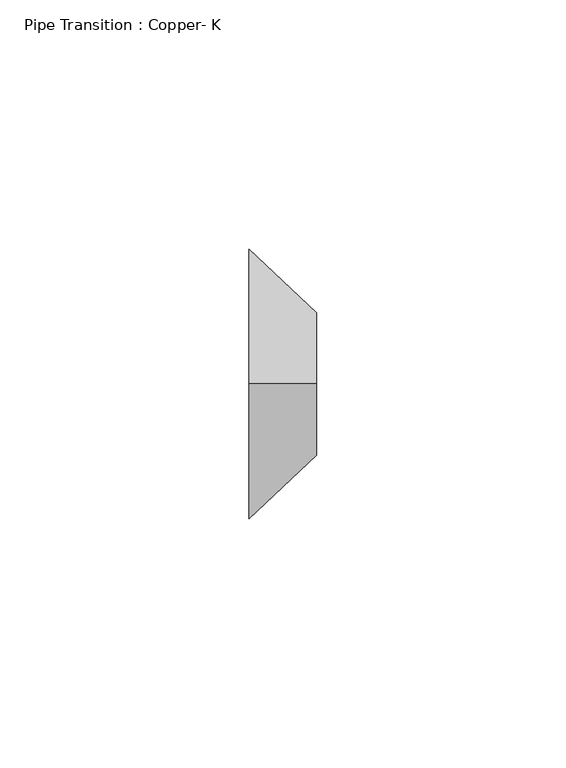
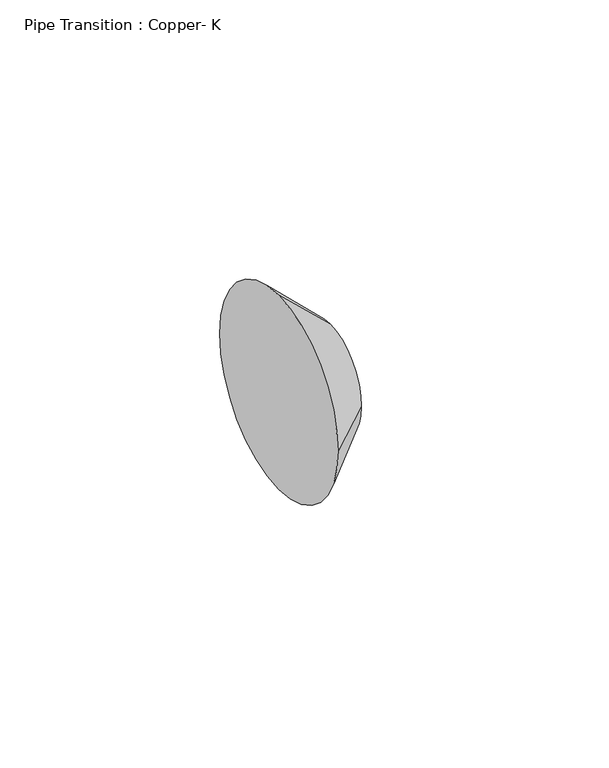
"""IFC4 building model written with IfcOpenShell, lengths in millimetres: pipe fitting geometry, Pipe Transition : Copper- K."""

from ifc_helpers import new_model, si_unit, frame, origin, place, context, project, spatial, polyline, circle_curve, source, transform, mapped, element, save
from ifc_brep_helpers import plane_surface, revolved_surface, advanced_brep


def pipe_transition_copper_k_a6a91236(model_context):
    return source(origin(), model_context, "Body", "AdvancedBrep", [
        advanced_brep(
        [(13.49375, 0.0, 14.2875), (13.49375, -14.2875, 0.0), (13.49375, 0.0, -14.2875), (13.49375, 14.2875, 0.0), (0.0, 0.0, 26.9875), (0.0, 26.9875, 0.0), (0.0, 0.0, -26.9875), (0.0, -26.9875, 0.0)],
        [
            (0, 1, circle_curve(frame((13.49375, 0.0, 0.0), z_axis=(1.0, 0.0, 0.0), x_axis=(0.0, 0.0, 1.0)), 14.2875)),
            (1, 2, circle_curve(frame((13.49375, 0.0, 0.0), z_axis=(1.0, 0.0, 0.0), x_axis=(0.0, -1.0, 0.0)), 14.2875)),
            (2, 3, circle_curve(frame((13.49375, 0.0, 0.0), z_axis=(1.0, 0.0, 0.0), x_axis=(0.0, 0.0, -1.0)), 14.2875)),
            (3, 0, circle_curve(frame((13.49375, 0.0, 0.0), z_axis=(1.0, 0.0, 0.0), x_axis=(0.0, 1.0, 0.0)), 14.2875)),
            (4, 5, circle_curve(frame((0.0, 0.0, 0.0), z_axis=(-1.0, 0.0, 0.0), x_axis=(0.0, 1.0, 0.0)), 26.9875)),
            (5, 6, circle_curve(frame((0.0, 0.0, 0.0), z_axis=(-1.0, 0.0, 0.0), x_axis=(0.0, 0.0, -1.0)), 26.9875)),
            (6, 7, circle_curve(frame((0.0, 0.0, 0.0), z_axis=(-1.0, 0.0, 0.0), x_axis=(0.0, -1.0, 0.0)), 26.9875)),
            (7, 4, circle_curve(frame((0.0, 0.0, 0.0), z_axis=(-1.0, 0.0, 0.0), x_axis=(0.0, 0.0, 1.0)), 26.9875)),
            (7, 1),
            (0, 4),
            (6, 2),
            (5, 3),
        ],
        [
            plane_surface(frame((13.49375, 0.0, 0.0), z_axis=(1.0, 0.0, 0.0), x_axis=(0.0, -1.0, 0.0))),
            plane_surface(frame((0.0, 0.0, 0.0), z_axis=(-1.0, 0.0, 0.0), x_axis=(0.0, -1.0, 0.0))),
            revolved_surface(polyline([(13.493750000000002, 0.0, 14.287500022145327), (0.0, 0.0, 26.9875)]), (28.6742188, 0.0, 0.0), (-1.0, 0.0, 0.0)),
            revolved_surface(polyline([(13.493750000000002, -14.287500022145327, 0.0), (0.0, -26.9875, 0.0)]), (28.6742188, 0.0, 0.0), (-1.0, 0.0, 0.0)),
            revolved_surface(polyline([(13.493750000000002, 0.0, -14.287500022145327), (0.0, 0.0, -26.9875)]), (28.6742188, 0.0, 0.0), (-1.0, 0.0, 0.0)),
            revolved_surface(polyline([(13.493750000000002, 14.287500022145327, 0.0), (0.0, 26.9875, 0.0)]), (28.6742188, 0.0, 0.0), (-1.0, 0.0, 0.0)),
        ],
        [
            (0, [[1, 2, 3, 4]]),
            (1, [[5, 6, 7, 8]]),
            (2, [[-8, 9, -1, 10]]),
            (3, [[-7, 11, -2, -9]]),
            (4, [[-6, 12, -3, -11]]),
            (5, [[-5, -10, -4, -12]]),
        ],
    ),
        advanced_brep(
        [(13.49375, 0.0, 14.2875), (13.49375, -14.2875, 0.0), (13.49375, 0.0, -14.2875), (13.49375, 14.2875, 0.0), (0.0, 0.0, 26.9875), (0.0, 26.9875, 0.0), (0.0, 0.0, -26.9875), (0.0, -26.9875, 0.0)],
        [
            (0, 1, circle_curve(frame((13.49375, 0.0, 0.0), z_axis=(1.0, 0.0, 0.0), x_axis=(0.0, 0.0, 1.0)), 14.2875)),
            (1, 2, circle_curve(frame((13.49375, 0.0, 0.0), z_axis=(1.0, 0.0, 0.0), x_axis=(0.0, -1.0, 0.0)), 14.2875)),
            (2, 3, circle_curve(frame((13.49375, 0.0, 0.0), z_axis=(1.0, 0.0, 0.0), x_axis=(0.0, 0.0, -1.0)), 14.2875)),
            (3, 0, circle_curve(frame((13.49375, 0.0, 0.0), z_axis=(1.0, 0.0, 0.0), x_axis=(0.0, 1.0, 0.0)), 14.2875)),
            (4, 5, circle_curve(frame((0.0, 0.0, 0.0), z_axis=(-1.0, 0.0, 0.0), x_axis=(0.0, 1.0, 0.0)), 26.9875)),
            (5, 6, circle_curve(frame((0.0, 0.0, 0.0), z_axis=(-1.0, 0.0, 0.0), x_axis=(0.0, 0.0, -1.0)), 26.9875)),
            (6, 7, circle_curve(frame((0.0, 0.0, 0.0), z_axis=(-1.0, 0.0, 0.0), x_axis=(0.0, -1.0, 0.0)), 26.9875)),
            (7, 4, circle_curve(frame((0.0, 0.0, 0.0), z_axis=(-1.0, 0.0, 0.0), x_axis=(0.0, 0.0, 1.0)), 26.9875)),
            (7, 1),
            (0, 4),
            (6, 2),
            (5, 3),
        ],
        [
            plane_surface(frame((13.49375, 0.0, 0.0), z_axis=(1.0, 0.0, 0.0), x_axis=(0.0, -1.0, 0.0))),
            plane_surface(frame((0.0, 0.0, 0.0), z_axis=(-1.0, 0.0, 0.0), x_axis=(0.0, -1.0, 0.0))),
            revolved_surface(polyline([(13.493750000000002, 0.0, 14.287500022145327), (0.0, 0.0, 26.9875)]), (28.6742188, 0.0, 0.0), (-1.0, 0.0, 0.0)),
            revolved_surface(polyline([(13.493750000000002, -14.287500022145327, 0.0), (0.0, -26.9875, 0.0)]), (28.6742188, 0.0, 0.0), (-1.0, 0.0, 0.0)),
            revolved_surface(polyline([(13.49375, 0.0, -14.28749997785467), (0.0, 0.0, -26.9875)]), (28.6742187, 0.0, 0.0), (-1.0, 0.0, 0.0)),
            revolved_surface(polyline([(13.49375, 14.28749997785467, 0.0), (0.0, 26.9875, 0.0)]), (28.6742187, 0.0, 0.0), (-1.0, 0.0, 0.0)),
        ],
        [
            (0, [[1, 2, 3, 4]]),
            (1, [[5, 6, 7, 8]]),
            (2, [[-8, 9, -1, 10]]),
            (3, [[-7, 11, -2, -9]]),
            (4, [[-6, 12, -3, -11]]),
            (5, [[-5, -10, -4, -12]]),
        ],
    ),
    ])


if __name__ == "__main__":
    model = new_model("IFC4")
    model_context = context("Model", 3, world=origin())
    ifc_project = project(units=[si_unit("LENGTHUNIT", "METRE", prefix="MILLI")], contexts=[model_context])
    site = spatial("IfcSite", under=ifc_project)
    building = spatial("IfcBuilding", under=site)
    placement = place(None, origin())
    pipe_transition_copper_k_shape = pipe_transition_copper_k_a6a91236(model_context)
    element("IfcPipeFitting", 1, ObjectType="Pipe Transition : Copper- K", at=placement, inside=building, context=model_context, shape_type="MappedRepresentation", body=[
        mapped(pipe_transition_copper_k_shape, transform((0.0, 0.0, 0.0), x_axis=(1.0, 0.0, 0.0), y_axis=(0.0, 1.0, 0.0), z_axis=(0.0, 0.0, 1.0))),
    ])
    save(model, "model.ifc")
